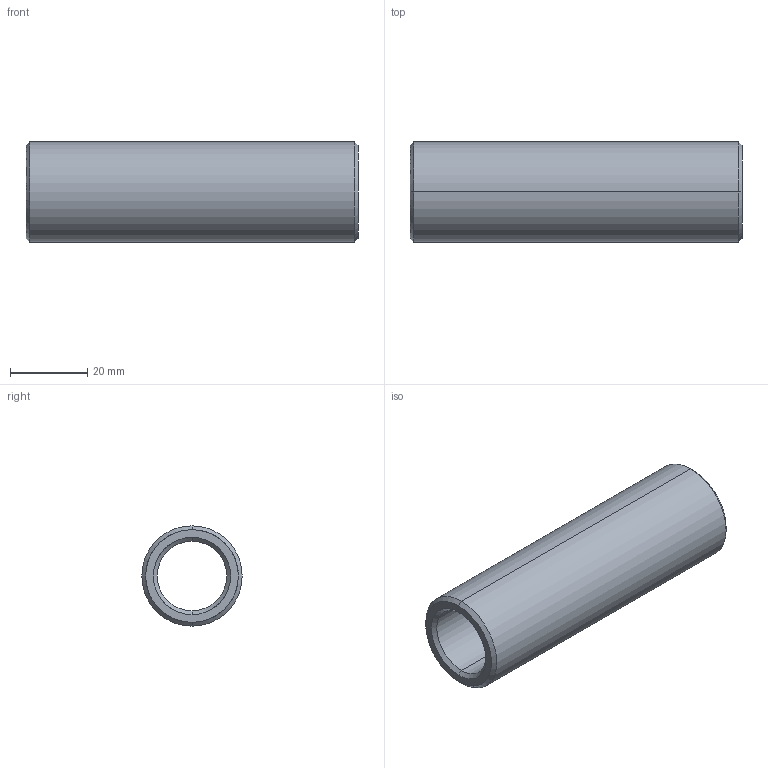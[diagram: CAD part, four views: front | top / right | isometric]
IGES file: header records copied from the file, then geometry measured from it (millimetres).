
Start section: START RECORD GO HERE.
Global section: file name: 352-18X86.igs; native system: DASSAULT SYSTEMES CATIA V5 R20 - www.3ds.com; preprocessor: CATIA Version 5 Release 20 ; author: Utente; organization: NB04-ASUS; date: 20210412.173740; units: millimetre
Bounding box: 86 x 26 x 26 mm (x, y, z)
Surface area: 12286.8 mm2 (no closed solid volume)
Topology: 0 solids, 0 shells, 14 faces, 88 edges, 88 vertices
Faces by surface type: revolution 12, plane 2
